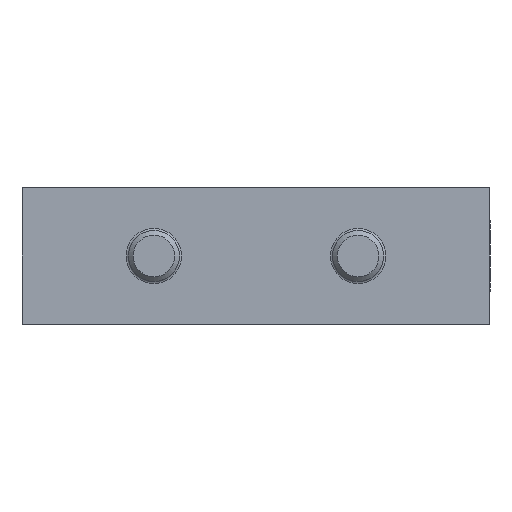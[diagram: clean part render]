
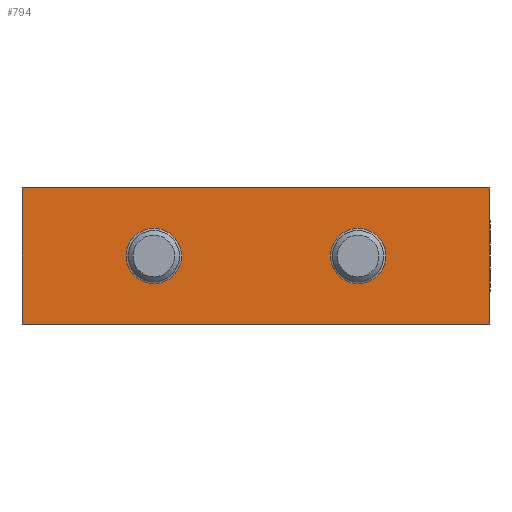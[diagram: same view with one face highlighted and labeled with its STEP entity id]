
A CAD part, front view. The second image highlights one B-rep face of the part: STEP entity #794.
In plain terms, the highlighted planar face has unit normal (0, -1, 0).
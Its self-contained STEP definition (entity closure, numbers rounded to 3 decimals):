
#1 = DIRECTION ( 'NONE',  ( 0., 1., 0. ) ) ;
#14 = FACE_OUTER_BOUND ( 'NONE', #296, .T. ) ;
#35 = ORIENTED_EDGE ( 'NONE', *, *, #55, .F. ) ;
#55 = EDGE_CURVE ( 'NONE', #182, #465, #856, .T. ) ;
#69 = ORIENTED_EDGE ( 'NONE', *, *, #706, .T. ) ;
#77 = CARTESIAN_POINT ( 'NONE',  ( -27.5, 0., -8. ) ) ;
#95 = CARTESIAN_POINT ( 'NONE',  ( -12., 0., 3.25 ) ) ;
#107 = PLANE ( 'NONE',  #1262 ) ;
#114 = CARTESIAN_POINT ( 'NONE',  ( -27.5, 0., 8. ) ) ;
#148 = CARTESIAN_POINT ( 'NONE',  ( -27.5, 0., 10. ) ) ;
#153 = EDGE_LOOP ( 'NONE', ( #744 ) ) ;
#164 = CARTESIAN_POINT ( 'NONE',  ( 12., 0., 0. ) ) ;
#182 = VERTEX_POINT ( 'NONE', #1013 ) ;
#186 = VERTEX_POINT ( 'NONE', #114 ) ;
#193 = EDGE_CURVE ( 'NONE', #186, #182, #437, .T. ) ;
#212 = DIRECTION ( 'NONE',  ( 0., 0., -1. ) ) ;
#232 = FACE_BOUND ( 'NONE', #153, .T. ) ;
#253 = CARTESIAN_POINT ( 'NONE',  ( 27.5, 0., -8. ) ) ;
#263 = ORIENTED_EDGE ( 'NONE', *, *, #513, .T. ) ;
#282 = VECTOR ( 'NONE', #212, 1000. ) ;
#296 = EDGE_LOOP ( 'NONE', ( #349, #263, #1246, #35 ) ) ;
#316 = CARTESIAN_POINT ( 'NONE',  ( 27.5, 0., 10. ) ) ;
#331 = CARTESIAN_POINT ( 'NONE',  ( -27.5, 0., 8. ) ) ;
#338 = AXIS2_PLACEMENT_3D ( 'NONE', #164, #1051, #849 ) ;
#349 = ORIENTED_EDGE ( 'NONE', *, *, #193, .F. ) ;
#410 = VERTEX_POINT ( 'NONE', #592 ) ;
#413 = DIRECTION ( 'NONE',  ( 0., 0., 1. ) ) ;
#416 = CARTESIAN_POINT ( 'NONE',  ( -12., 0., 0. ) ) ;
#437 = LINE ( 'NONE', #331, #1188 ) ;
#448 = DIRECTION ( 'NONE',  ( 1., 0., 0. ) ) ;
#465 = VERTEX_POINT ( 'NONE', #253 ) ;
#489 = VERTEX_POINT ( 'NONE', #77 ) ;
#513 = EDGE_CURVE ( 'NONE', #186, #489, #1268, .T. ) ;
#533 = EDGE_CURVE ( 'NONE', #410, #410, #618, .T. ) ;
#586 = EDGE_LOOP ( 'NONE', ( #69 ) ) ;
#592 = CARTESIAN_POINT ( 'NONE',  ( 12., 0., 3.25 ) ) ;
#614 = DIRECTION ( 'NONE',  ( 0., 0., 1. ) ) ;
#618 = CIRCLE ( 'NONE', #338, 3.25 ) ;
#626 = CARTESIAN_POINT ( 'NONE',  ( 27.5, 0., 10. ) ) ;
#631 = FACE_BOUND ( 'NONE', #586, .T. ) ;
#706 = EDGE_CURVE ( 'NONE', #801, #801, #733, .T. ) ;
#711 = DIRECTION ( 'NONE',  ( 1., 0., 0. ) ) ;
#733 = CIRCLE ( 'NONE', #967, 3.25 ) ;
#744 = ORIENTED_EDGE ( 'NONE', *, *, #533, .T. ) ;
#794 = ADVANCED_FACE ( 'NONE', ( #232, #631, #14 ), #107, .F. ) ;
#801 = VERTEX_POINT ( 'NONE', #95 ) ;
#834 = VECTOR ( 'NONE', #1160, 1000. ) ;
#849 = DIRECTION ( 'NONE',  ( 0., 0., 1. ) ) ;
#856 = LINE ( 'NONE', #316, #282 ) ;
#879 = LINE ( 'NONE', #1289, #993 ) ;
#905 = DIRECTION ( 'NONE',  ( 0., 1., 0. ) ) ;
#967 = AXIS2_PLACEMENT_3D ( 'NONE', #416, #1, #614 ) ;
#993 = VECTOR ( 'NONE', #711, 1000. ) ;
#1013 = CARTESIAN_POINT ( 'NONE',  ( 27.5, 0., 8. ) ) ;
#1051 = DIRECTION ( 'NONE',  ( 0., 1., 0. ) ) ;
#1058 = EDGE_CURVE ( 'NONE', #489, #465, #879, .T. ) ;
#1160 = DIRECTION ( 'NONE',  ( 0., 0., -1. ) ) ;
#1188 = VECTOR ( 'NONE', #448, 1000. ) ;
#1246 = ORIENTED_EDGE ( 'NONE', *, *, #1058, .T. ) ;
#1262 = AXIS2_PLACEMENT_3D ( 'NONE', #626, #905, #413 ) ;
#1268 = LINE ( 'NONE', #148, #834 ) ;
#1289 = CARTESIAN_POINT ( 'NONE',  ( -27.5, 0., -8. ) ) ;
